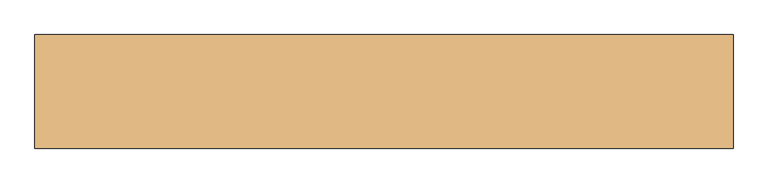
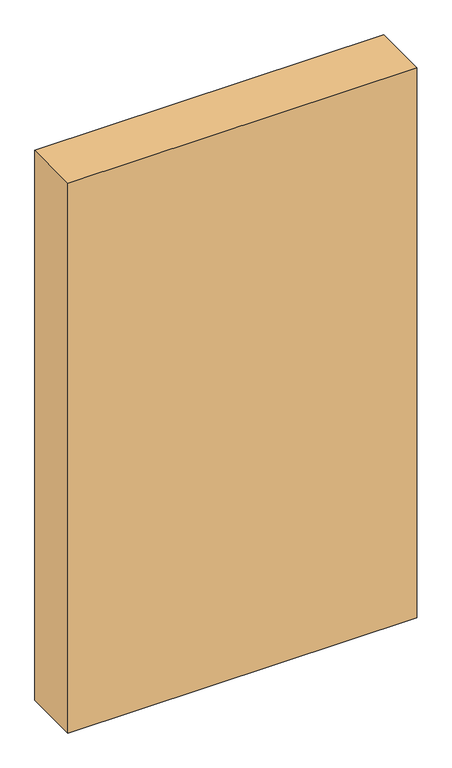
"""IFC4 building model written with IfcOpenShell, lengths in millimetres: door geometry, Dr_Проем-Простой : ДВ."""

import ifcopenshell
import ifcopenshell.guid

model = None  # the IFC model being written
_history = None  # IfcOwnerHistory: only IFC2X3 demands one
_inside = {}  # id of a spatial element -> (the spatial element, [elements in it])
_under = {}  # id of a project, library or spatial element -> (it, [spatial elements below it])
_declared = {}  # id of a project -> (the project, [libraries it declares])
_typed = {}  # id of a type object -> (the type object, [elements of that type])
_made_of = {}  # id of a material, layer set ... -> (it, [elements and type objects made of it])


def new_model(schema):
    """Start an empty IFC model of exactly this schema.

    Asked for "IFC4X3", IfcOpenShell would pick the latest addendum, in which some entities
    have other attributes; the version numbers below select the first issue.
    IFC2X3 requires an IfcOwnerHistory on every rooted entity: one is made here for all.
    """
    global model, _history
    if schema == "IFC4X3":
        model = ifcopenshell.file(schema_version=(4, 3, 0, 0))
    else:
        model = ifcopenshell.file(schema=schema)
    _inside.clear()
    _under.clear()
    _declared.clear()
    _typed.clear()
    _made_of.clear()
    _history = None
    if model.schema == "IFC2X3":
        org = make("IfcOrganization", Name="unknown")
        user = make(
            "IfcPersonAndOrganization",
            ThePerson=make("IfcPerson", FamilyName="unknown"),
            TheOrganization=org,
        )
        app = make(
            "IfcApplication",
            ApplicationDeveloper=org,
            Version="unknown",
            ApplicationFullName="unknown",
            ApplicationIdentifier="unknown",
        )
        _history = make(
            "IfcOwnerHistory",
            OwningUser=user,
            OwningApplication=app,
            ChangeAction="ADDED",
            CreationDate=0,
        )
    return model


def make(cls, **values):
    """One entity of the class cls with the attributes given. An attribute that is None is left unset."""
    return model.create_entity(
        cls, **{name: value for name, value in values.items() if value is not None}
    )


def rooted(cls, **values):
    """An entity with a GlobalId (a new one), such as an element, a storey or a relation."""
    return make(cls, GlobalId=ifcopenshell.guid.new(), OwnerHistory=_history, **values)


def si_unit(unit_type, name, prefix=None):
    """IfcSIUnit, for example si_unit("LENGTHUNIT", "METRE", prefix="MILLI")."""
    return make("IfcSIUnit", UnitType=unit_type, Prefix=prefix, Name=name)


def assignment(units):
    """IfcUnitAssignment: the units of a project."""
    return None if units is None else make("IfcUnitAssignment", Units=units)


def point(xyz):
    """IfcCartesianPoint."""
    return None if xyz is None else make("IfcCartesianPoint", Coordinates=xyz)


def direction(xyz):
    """IfcDirection."""
    return None if xyz is None else make("IfcDirection", DirectionRatios=xyz)


def frame(location, z_axis=None, x_axis=None):
    """IfcAxis2Placement3D, a coordinate frame: its origin and axes. An axis left out is left unset."""
    return make(
        "IfcAxis2Placement3D",
        Location=point(location),
        Axis=direction(z_axis),
        RefDirection=direction(x_axis),
    )


def origin():
    """The frame at (0, 0, 0) with its axes left unset."""
    return frame((0.0, 0.0, 0.0))


def place(relative_to, where):
    """IfcLocalPlacement: puts the frame where relative to a parent placement (None: the world)."""
    return make(
        "IfcLocalPlacement", PlacementRelTo=relative_to, RelativePlacement=where
    )


def context(
    kind, dimensions, precision=None, world=None, true_north=None, identifier=None
):
    """IfcGeometricRepresentationContext, for example the 3D "Model" context."""
    return make(
        "IfcGeometricRepresentationContext",
        ContextIdentifier=identifier,
        ContextType=kind,
        CoordinateSpaceDimension=dimensions,
        Precision=precision,
        WorldCoordinateSystem=world,
        TrueNorth=true_north,
    )


def project(units=None, contexts=None):
    """IfcProject with its units and contexts."""
    return rooted(
        "IfcProject",
        Name="project",
        RepresentationContexts=contexts,
        UnitsInContext=assignment(units),
    )


def spatial(cls, under=None, at=None, **own):
    """A site, building, storey or space (cls), placed at a placement, below another one or the project."""
    s = rooted(cls, ObjectPlacement=at, **own)
    if under is not None:
        _under.setdefault(under.id(), (under, []))[1].append(s)
    return s


def polyline(points):
    """IfcPolyline through the points."""
    return make("IfcPolyline", Points=[point(p) for p in points])


def outline(outer, holes=None, kind="AREA"):
    """IfcArbitraryClosedProfileDef: a profile drawn as a closed curve; with holes, ...WithVoids."""
    if holes is None:
        return make("IfcArbitraryClosedProfileDef", ProfileType=kind, OuterCurve=outer)
    return make(
        "IfcArbitraryProfileDefWithVoids",
        ProfileType=kind,
        OuterCurve=outer,
        InnerCurves=holes,
    )


def extrude(swept, where, along, depth):
    """IfcExtrudedAreaSolid: the profile swept, set in the frame where, extruded along a direction by depth."""
    return make(
        "IfcExtrudedAreaSolid",
        SweptArea=swept,
        Position=where,
        ExtrudedDirection=direction(along),
        Depth=depth,
    )


def shape(context_of_items, identifier, shape_type, items):
    """IfcShapeRepresentation: the items that make up one representation, for example the "Body"."""
    return make(
        "IfcShapeRepresentation",
        ContextOfItems=context_of_items,
        RepresentationIdentifier=identifier,
        RepresentationType=shape_type,
        Items=items,
    )


def source(mapping_origin, context_of_items, identifier, shape_type, items):
    """IfcRepresentationMap: a shape defined once, which mapped items show again and again."""
    return make(
        "IfcRepresentationMap",
        MappingOrigin=mapping_origin,
        MappedRepresentation=shape(context_of_items, identifier, shape_type, items),
    )


def transform(
    local_origin,
    x_axis=None,
    y_axis=None,
    z_axis=None,
    scale=None,
    scale2=None,
    scale3=None,
    uniform=True,
):
    """IfcCartesianTransformationOperator3D, or its non-uniform kind. x_axis, y_axis, z_axis: its Axis1, 2, 3."""
    if uniform:
        return make(
            "IfcCartesianTransformationOperator3D",
            Axis1=direction(x_axis),
            Axis2=direction(y_axis),
            LocalOrigin=point(local_origin),
            Scale=scale,
            Axis3=direction(z_axis),
        )
    return make(
        "IfcCartesianTransformationOperator3DnonUniform",
        Axis1=direction(x_axis),
        Axis2=direction(y_axis),
        LocalOrigin=point(local_origin),
        Scale=scale,
        Axis3=direction(z_axis),
        Scale2=scale2,
        Scale3=scale3,
    )


def mapped(mapping_source, mapping_target):
    """IfcMappedItem: shows the shape of a source again, moved by a transform."""
    return make(
        "IfcMappedItem", MappingSource=mapping_source, MappingTarget=mapping_target
    )


def made_of(thing, what):
    """Note that an element or type object is made of a material, layer set ...; save() writes the relation."""
    if what is not None:
        _made_of.setdefault(what.id(), (what, []))[1].append(thing)
    return thing


def element(
    cls,
    number,
    at=None,
    inside=None,
    cuts=None,
    type_object=None,
    material=None,
    context=None,
    identifier="Body",
    shape_type=None,
    held_by="IfcProductDefinitionShape",
    body=None,
    shapes=None,
    **own,
):
    """One element of the class cls, such as IfcWall. Its Tag is "e" and its number.

    at: its placement. inside: the storey or other place that contains it. cuts: it is an
    opening in that element (IfcRelVoidsElement). A single representation is given by context,
    identifier, shape_type and body (its items); several are given by shapes. held_by: the class
    of the entity that holds the representations. save() writes the other relations.
    """
    e = rooted(cls, Tag="e%d" % number, ObjectPlacement=at, **own)
    if body is not None:
        shapes = [shape(context, identifier, shape_type, body)]
    if shapes is not None:
        e.Representation = make(held_by, Representations=shapes)
    if inside is not None:
        _inside.setdefault(inside.id(), (inside, []))[1].append(e)
    if cuts is not None:
        rooted(
            "IfcRelVoidsElement", RelatingBuildingElement=cuts, RelatedOpeningElement=e
        )
    if type_object is not None:
        _typed.setdefault(type_object.id(), (type_object, []))[1].append(e)
    return made_of(e, material)


def aggregate(whole, parts):
    """IfcRelAggregates: a whole, such as a stair, and the parts it consists of."""
    return rooted("IfcRelAggregates", RelatingObject=whole, RelatedObjects=parts)


def save(model, path):
    """Write the relations noted so far, then the file.

    IfcRelAggregates (storeys below a building ...), IfcRelContainedInSpatialStructure (elements
    in a storey), IfcRelDefinesByType, IfcRelAssociatesMaterial and IfcRelDeclares: one each for
    every whole, place, type object, material and project.
    """
    for whole, parts in _under.values():
        aggregate(whole, parts)
    for where, things in _inside.values():
        rooted(
            "IfcRelContainedInSpatialStructure",
            RelatedElements=things,
            RelatingStructure=where,
        )
    for kind, things in _typed.values():
        rooted("IfcRelDefinesByType", RelatedObjects=things, RelatingType=kind)
    for what, things in _made_of.values():
        rooted("IfcRelAssociatesMaterial", RelatedObjects=things, RelatingMaterial=what)
    for by, libraries in _declared.values():
        rooted("IfcRelDeclares", RelatingContext=by, RelatedDefinitions=libraries)
    model.write(path)


def door_7aa9ae6f(model_context):
    return source(origin(), model_context, "Body", "SweptSolid", [
        extrude(outline(polyline([(970.3230163, -125.0), (-559.6769837, -125.0), (-559.6769837, 125.0), (970.3230163, 125.0), (970.3230163, -125.0)])), frame((0.0, 0.0, -250.0), z_axis=(0.0, 0.0, 1.0), x_axis=(1.0, 0.0, 0.0)), (0.0, 0.0, 1.0), 2550.0),
    ])


if __name__ == "__main__":
    model = new_model("IFC4")
    model_context = context("Model", 3, world=origin())
    ifc_project = project(units=[si_unit("LENGTHUNIT", "METRE", prefix="MILLI")], contexts=[model_context])
    site = spatial("IfcSite", under=ifc_project)
    building = spatial("IfcBuilding", under=site)
    placement = place(None, origin())
    door_shape = door_7aa9ae6f(model_context)
    element("IfcDoor", 1, ObjectType="Dr_Проем-Простой : ДВ", at=placement, inside=building, context=model_context, shape_type="MappedRepresentation", body=[
        mapped(door_shape, transform((0.0, 0.0, 0.0), x_axis=(1.0, 0.0, 0.0), y_axis=(0.0, 1.0, 0.0), z_axis=(0.0, 0.0, 1.0))),
    ])
    save(model, "model.ifc")
